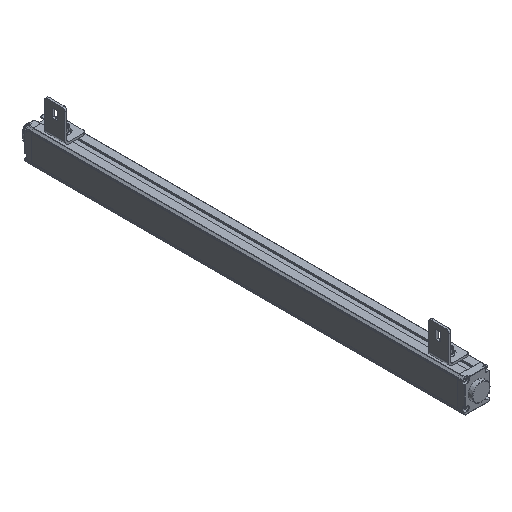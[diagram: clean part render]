
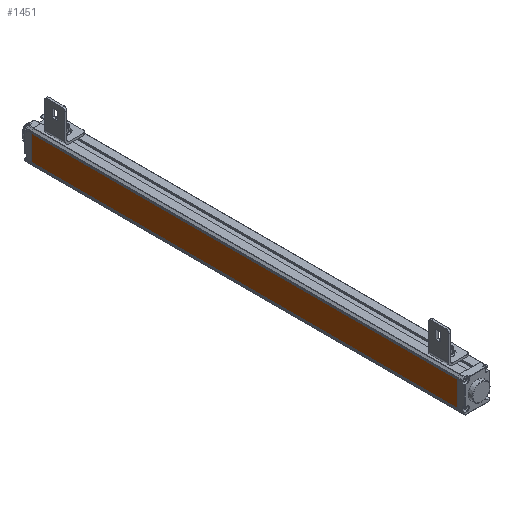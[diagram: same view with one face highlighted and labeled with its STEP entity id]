
A CAD part, isometric view. The second image highlights one B-rep face of the part: STEP entity #1451.
In plain terms, the highlighted planar face has unit normal (-1, 0, 0).
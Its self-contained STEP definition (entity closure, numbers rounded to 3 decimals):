
#24=DIRECTION('',(0.,0.,1.));
#25=VECTOR('',#24,35.4);
#26=CARTESIAN_POINT('',(-17.7,-302.5,-18.1));
#27=LINE('',#26,#25);
#361=DIRECTION('',(0.,0.,1.));
#362=VECTOR('',#361,35.4);
#363=CARTESIAN_POINT('',(-17.7,302.5,-18.1));
#364=LINE('',#363,#362);
#534=DIRECTION('',(0.,1.,0.));
#535=VECTOR('',#534,605.);
#536=CARTESIAN_POINT('',(-17.7,-302.5,17.3));
#537=LINE('',#536,#535);
#538=DIRECTION('',(0.,1.,0.));
#539=VECTOR('',#538,605.);
#540=CARTESIAN_POINT('',(-17.7,-302.5,-18.1));
#541=LINE('',#540,#539);
#613=CARTESIAN_POINT('',(-17.7,-302.5,-18.1));
#615=VERTEX_POINT('',#613);
#616=CARTESIAN_POINT('',(-17.7,-302.5,17.3));
#617=VERTEX_POINT('',#616);
#633=CARTESIAN_POINT('',(-17.7,302.5,-18.1));
#635=VERTEX_POINT('',#633);
#636=CARTESIAN_POINT('',(-17.7,302.5,17.3));
#637=VERTEX_POINT('',#636);
#1439=CARTESIAN_POINT('',(-17.7,-302.5,-18.1));
#1440=DIRECTION('',(-1.,0.,0.));
#1441=DIRECTION('',(0.,0.,1.));
#1442=AXIS2_PLACEMENT_3D('',#1439,#1440,#1441);
#1443=PLANE('',#1442);
#1444=ORIENTED_EDGE('',*,*,#741,.F.);
#1446=ORIENTED_EDGE('',*,*,#1445,.T.);
#1447=ORIENTED_EDGE('',*,*,#933,.T.);
#1448=ORIENTED_EDGE('',*,*,#1432,.F.);
#1449=EDGE_LOOP('',(#1444,#1446,#1447,#1448));
#1450=FACE_OUTER_BOUND('',#1449,.F.);
#1451=ADVANCED_FACE('',(#1450),#1443,.T.);
#741=EDGE_CURVE('',#615,#617,#27,.T.);
#933=EDGE_CURVE('',#635,#637,#364,.T.);
#1432=EDGE_CURVE('',#617,#637,#537,.T.);
#1445=EDGE_CURVE('',#615,#635,#541,.T.);
